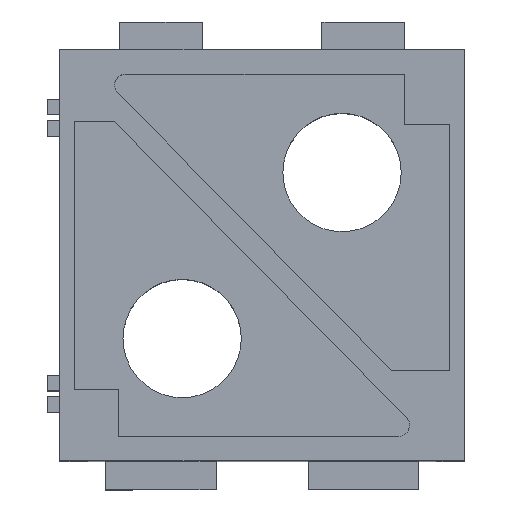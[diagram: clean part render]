
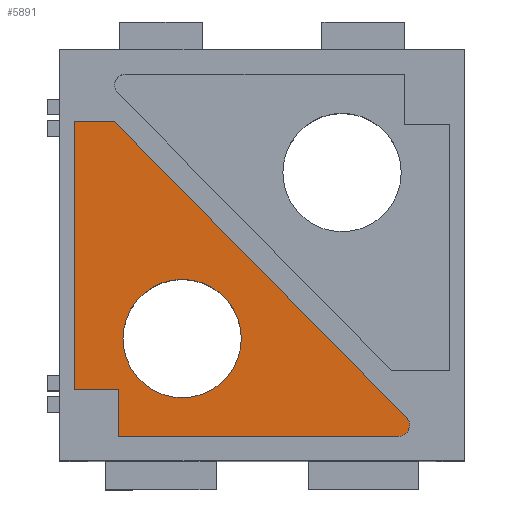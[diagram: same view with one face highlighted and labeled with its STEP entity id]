
A CAD part, top view. The second image highlights one B-rep face of the part: STEP entity #5891.
In plain terms, the highlighted planar face has unit normal (0, 0, 1).
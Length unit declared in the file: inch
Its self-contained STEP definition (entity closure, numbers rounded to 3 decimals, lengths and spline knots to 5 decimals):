
#264 = VERTEX_POINT ( 'NONE', #4394 ) ;
#265 = VERTEX_POINT ( 'NONE', #4395 ) ;
#297 = EDGE_CURVE ( 'NONE', #264, #265, #4456, .T. ) ;
#322 = EDGE_CURVE ( 'NONE', #387, #323, #4581, .T. ) ;
#323 = VERTEX_POINT ( 'NONE', #4576 ) ;
#387 = VERTEX_POINT ( 'NONE', #4686 ) ;
#820 = EDGE_CURVE ( 'NONE', #323, #387, #5585, .T. ) ;
#1162 = EDGE_CURVE ( 'NONE', #1163, #1202, #1703, .T. ) ;
#1163 = VERTEX_POINT ( 'NONE', #1727 ) ;
#1165 = VERTEX_POINT ( 'NONE', #1726 ) ;
#1185 = VERTEX_POINT ( 'NONE', #1903 ) ;
#1187 = EDGE_CURVE ( 'NONE', #1188, #1185, #1910, .T. ) ;
#1188 = VERTEX_POINT ( 'NONE', #1861 ) ;
#1201 = EDGE_CURVE ( 'NONE', #1202, #1165, #1879, .T. ) ;
#1202 = VERTEX_POINT ( 'NONE', #1906 ) ;
#1251 = EDGE_CURVE ( 'NONE', #265, #5976, #1857, .T. ) ;
#1257 = EDGE_CURVE ( 'NONE', #1185, #264, #1842, .T. ) ;
#1368 = EDGE_CURVE ( 'NONE', #1165, #1188, #2290, .T. ) ;
#1687 = CARTESIAN_POINT ( 'NONE',  ( -0.5374, -1.28847, 1.50984 ) ) ;
#1703 = LINE ( 'NONE', #1687, #1729 ) ;
#1726 = CARTESIAN_POINT ( 'NONE',  ( -0.41142, -0.38386, 1.50984 ) ) ;
#1727 = CARTESIAN_POINT ( 'NONE',  ( -0.5374, 0.38386, 1.50984 ) ) ;
#1728 = DIRECTION ( 'NONE',  ( 0., -1., 0. ) ) ;
#1729 = VECTOR ( 'NONE', #1728, 39.37008 ) ;
#1740 = DIRECTION ( 'NONE',  ( 1., 0., 0. ) ) ;
#1741 = CARTESIAN_POINT ( 'NONE',  ( 0., -0.51772, 1.50984 ) ) ;
#1828 = DIRECTION ( 'NONE',  ( 1., 0., 0. ) ) ;
#1829 = DIRECTION ( 'NONE',  ( 0., 0., 1. ) ) ;
#1830 = AXIS2_PLACEMENT_3D ( 'NONE', #1837, #1829, #1828 ) ;
#1837 = CARTESIAN_POINT ( 'NONE',  ( 0.39058, -0.48647, 1.50984 ) ) ;
#1842 = CIRCLE ( 'NONE', #1830, 0.03125 ) ;
#1854 = DIRECTION ( 'NONE',  ( -0.702, 0.712, 0. ) ) ;
#1855 = VECTOR ( 'NONE', #1854, 39.37008 ) ;
#1856 = CARTESIAN_POINT ( 'NONE',  ( 0.62144, -0.67629, 1.50984 ) ) ;
#1857 = LINE ( 'NONE', #1856, #1855 ) ;
#1861 = CARTESIAN_POINT ( 'NONE',  ( -0.41142, -0.51772, 1.50984 ) ) ;
#1862 = VECTOR ( 'NONE', #1740, 39.37008 ) ;
#1879 = LINE ( 'NONE', #1909, #1908 ) ;
#1903 = CARTESIAN_POINT ( 'NONE',  ( 0.39058, -0.51772, 1.50984 ) ) ;
#1906 = CARTESIAN_POINT ( 'NONE',  ( -0.5374, -0.38386, 1.50984 ) ) ;
#1907 = DIRECTION ( 'NONE',  ( 1., 0., 0. ) ) ;
#1908 = VECTOR ( 'NONE', #1907, 39.37008 ) ;
#1909 = CARTESIAN_POINT ( 'NONE',  ( 0., -0.38386, 1.50984 ) ) ;
#1910 = LINE ( 'NONE', #1741, #1862 ) ;
#2263 = VECTOR ( 'NONE', #2288, 39.37008 ) ;
#2288 = DIRECTION ( 'NONE',  ( 0., -1., 0. ) ) ;
#2289 = CARTESIAN_POINT ( 'NONE',  ( -0.41142, -1.28847, 1.50984 ) ) ;
#2290 = LINE ( 'NONE', #2289, #2263 ) ;
#4394 = CARTESIAN_POINT ( 'NONE',  ( 0.42183, -0.48647, 1.50984 ) ) ;
#4395 = CARTESIAN_POINT ( 'NONE',  ( 0.41285, -0.46454, 1.50984 ) ) ;
#4452 = DIRECTION ( 'NONE',  ( 1., 0., 0. ) ) ;
#4453 = DIRECTION ( 'NONE',  ( 0., 0., 1. ) ) ;
#4454 = CARTESIAN_POINT ( 'NONE',  ( 0.39058, -0.48647, 1.50984 ) ) ;
#4455 = AXIS2_PLACEMENT_3D ( 'NONE', #4454, #4453, #4452 ) ;
#4456 = CIRCLE ( 'NONE', #4455, 0.03125 ) ;
#4576 = CARTESIAN_POINT ( 'NONE',  ( -0.05945, -0.2375, 1.50984 ) ) ;
#4577 = DIRECTION ( 'NONE',  ( 1., 0., 0. ) ) ;
#4578 = DIRECTION ( 'NONE',  ( 0., 0., 1. ) ) ;
#4579 = CARTESIAN_POINT ( 'NONE',  ( -0.22874, -0.2375, 1.50984 ) ) ;
#4580 = AXIS2_PLACEMENT_3D ( 'NONE', #4579, #4578, #4577 ) ;
#4581 = CIRCLE ( 'NONE', #4580, 0.16929 ) ;
#4686 = CARTESIAN_POINT ( 'NONE',  ( -0.39803, -0.2375, 1.50984 ) ) ;
#5562 = AXIS2_PLACEMENT_3D ( 'NONE', #5587, #5586, #5564 ) ;
#5564 = DIRECTION ( 'NONE',  ( 1., 0., 0. ) ) ;
#5585 = CIRCLE ( 'NONE', #5562, 0.16929 ) ;
#5586 = DIRECTION ( 'NONE',  ( 0., 0., 1. ) ) ;
#5587 = CARTESIAN_POINT ( 'NONE',  ( -0.22874, -0.2375, 1.50984 ) ) ;
#5747 = ORIENTED_EDGE ( 'NONE', *, *, #1187, .T. ) ;
#5749 = EDGE_LOOP ( 'NONE', ( #5747, #5779, #5895, #5977, #5978, #5979, #5980, #5981 ) ) ;
#5779 = ORIENTED_EDGE ( 'NONE', *, *, #1257, .T. ) ;
#5780 = EDGE_LOOP ( 'NONE', ( #5781, #5928 ) ) ;
#5781 = ORIENTED_EDGE ( 'NONE', *, *, #820, .F. ) ;
#5891 = ADVANCED_FACE ( 'NONE', ( #6749, #6748 ), #6746, .T. ) ;
#5895 = ORIENTED_EDGE ( 'NONE', *, *, #297, .T. ) ;
#5928 = ORIENTED_EDGE ( 'NONE', *, *, #322, .F. ) ;
#5975 = EDGE_CURVE ( 'NONE', #5976, #1163, #6835, .T. ) ;
#5976 = VERTEX_POINT ( 'NONE', #6878 ) ;
#5977 = ORIENTED_EDGE ( 'NONE', *, *, #1251, .T. ) ;
#5978 = ORIENTED_EDGE ( 'NONE', *, *, #5975, .T. ) ;
#5979 = ORIENTED_EDGE ( 'NONE', *, *, #1162, .T. ) ;
#5980 = ORIENTED_EDGE ( 'NONE', *, *, #1201, .T. ) ;
#5981 = ORIENTED_EDGE ( 'NONE', *, *, #1368, .T. ) ;
#6744 = CARTESIAN_POINT ( 'NONE',  ( 0., -1.28847, 1.50984 ) ) ;
#6745 = AXIS2_PLACEMENT_3D ( 'NONE', #6744, #6755, #6754 ) ;
#6746 = PLANE ( 'NONE',  #6745 ) ;
#6748 = FACE_OUTER_BOUND ( 'NONE', #5749, .T. ) ;
#6749 = FACE_BOUND ( 'NONE', #5780, .T. ) ;
#6754 = DIRECTION ( 'NONE',  ( 1., 0., 0. ) ) ;
#6755 = DIRECTION ( 'NONE',  ( 0., 0., 1. ) ) ;
#6835 = LINE ( 'NONE', #6881, #6880 ) ;
#6878 = CARTESIAN_POINT ( 'NONE',  ( -0.4229, 0.38386, 1.50984 ) ) ;
#6879 = DIRECTION ( 'NONE',  ( -1., 0., 0. ) ) ;
#6880 = VECTOR ( 'NONE', #6879, 39.37008 ) ;
#6881 = CARTESIAN_POINT ( 'NONE',  ( 0., 0.38386, 1.50984 ) ) ;
